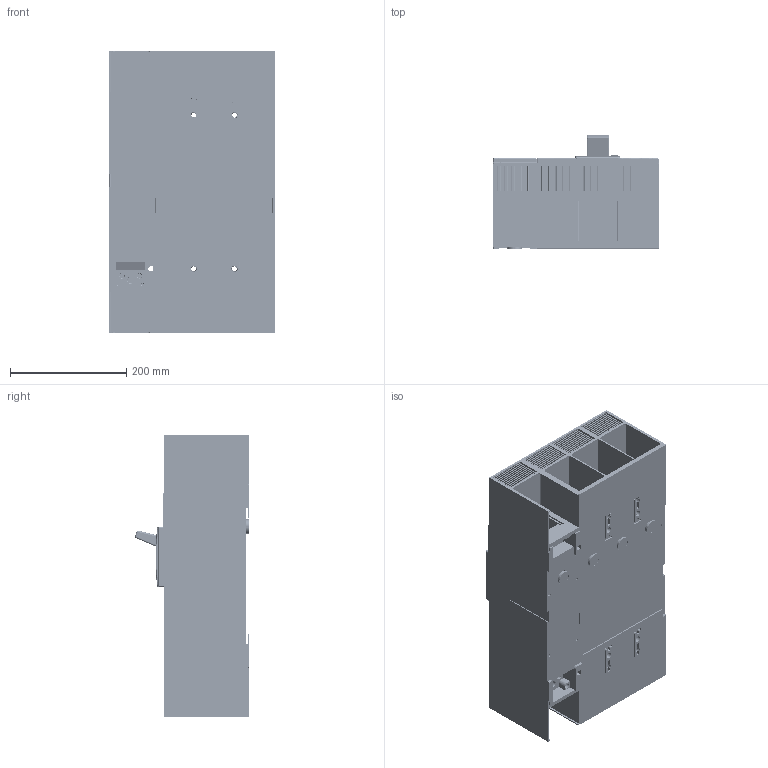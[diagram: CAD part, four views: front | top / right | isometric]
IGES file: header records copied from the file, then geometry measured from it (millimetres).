
Start section: SolidWorks IGES file using analytic representation for surfaces
Global section: file name: Q:\GROUPS\BR_SC_JGS_WA_TECNICO\ENG\Usuarios\Rodrigob\conversão\Disjuntor de Caixa Moldada\Produto\DWA1600 - 4P\DWA1600 - 4P.IGS; native system: SolidWorks 2009; preprocessor: SolidWorks 2009; author: rodrigob; date: 111017.131023; units: millimetre
Bounding box: 285 x 196.43 x 485.5 mm (x, y, z)
Surface area: 1756893.3 mm2 (no closed solid volume)
Topology: 0 solids, 0 shells, 4218 faces, 45106 edges, 45096 vertices
Faces by surface type: bspline 2791, revolution 1427
